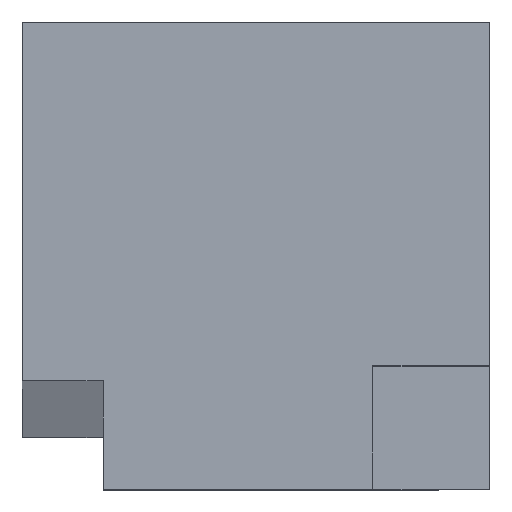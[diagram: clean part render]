
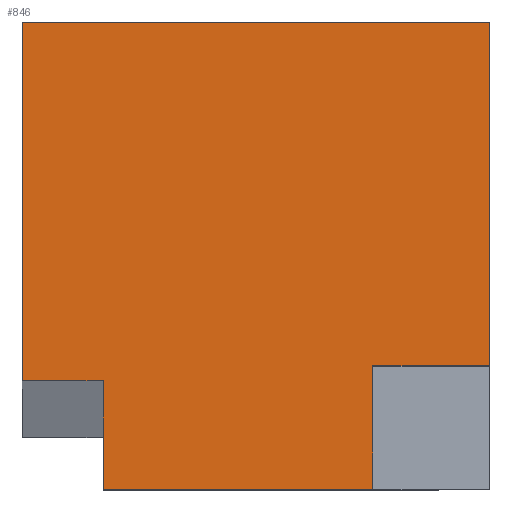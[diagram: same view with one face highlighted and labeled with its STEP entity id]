
A CAD part, top view. The second image highlights one B-rep face of the part: STEP entity #846.
In plain terms, the highlighted planar face has unit normal (0, 0, 1).
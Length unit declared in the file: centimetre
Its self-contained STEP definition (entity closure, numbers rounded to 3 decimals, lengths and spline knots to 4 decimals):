
#14 = VECTOR ( 'NONE', #63, 100. ) ;
#20 = LINE ( 'NONE', #787, #820 ) ;
#23 = LINE ( 'NONE', #365, #653 ) ;
#33 = AXIS2_PLACEMENT_3D ( 'NONE', #235, #647, #655 ) ;
#43 = VERTEX_POINT ( 'NONE', #92 ) ;
#44 = VERTEX_POINT ( 'NONE', #243 ) ;
#61 = EDGE_LOOP ( 'NONE', ( #576, #256, #649, #291, #413, #753, #920, #535 ) ) ;
#63 = DIRECTION ( 'NONE',  ( -1., 0., 0. ) ) ;
#92 = CARTESIAN_POINT ( 'NONE',  ( 172.8303, 0., 1000. ) ) ;
#98 = CARTESIAN_POINT ( 'NONE',  ( 0., 1000., 1000. ) ) ;
#129 = VECTOR ( 'NONE', #138, 100. ) ;
#138 = DIRECTION ( 'NONE',  ( -1., 0., 0. ) ) ;
#148 = VECTOR ( 'NONE', #518, 100. ) ;
#167 = CARTESIAN_POINT ( 'NONE',  ( 0., 231.7708, 1000. ) ) ;
#217 = VERTEX_POINT ( 'NONE', #227 ) ;
#218 = VERTEX_POINT ( 'NONE', #783 ) ;
#227 = CARTESIAN_POINT ( 'NONE',  ( 0., 1000., 1000. ) ) ;
#233 = CARTESIAN_POINT ( 'NONE',  ( 0., 1000., 1000. ) ) ;
#235 = CARTESIAN_POINT ( 'NONE',  ( 0., 0., 1000. ) ) ;
#243 = CARTESIAN_POINT ( 'NONE',  ( 1000., 1000., 1000. ) ) ;
#248 = VECTOR ( 'NONE', #745, 100. ) ;
#249 = EDGE_CURVE ( 'NONE', #473, #615, #546, .T. ) ;
#256 = ORIENTED_EDGE ( 'NONE', *, *, #595, .F. ) ;
#291 = ORIENTED_EDGE ( 'NONE', *, *, #335, .T. ) ;
#303 = DIRECTION ( 'NONE',  ( 1., 0., 0. ) ) ;
#305 = EDGE_CURVE ( 'NONE', #719, #44, #23, .T. ) ;
#309 = VECTOR ( 'NONE', #349, 100. ) ;
#320 = CARTESIAN_POINT ( 'NONE',  ( 750.0149, 264.616, 1000. ) ) ;
#335 = EDGE_CURVE ( 'NONE', #44, #217, #579, .T. ) ;
#342 = VECTOR ( 'NONE', #370, 100. ) ;
#344 = LINE ( 'NONE', #923, #309 ) ;
#349 = DIRECTION ( 'NONE',  ( 0., 1., 0. ) ) ;
#352 = CARTESIAN_POINT ( 'NONE',  ( 1000., 264.616, 1000. ) ) ;
#354 = VERTEX_POINT ( 'NONE', #167 ) ;
#361 = PLANE ( 'NONE',  #33 ) ;
#365 = CARTESIAN_POINT ( 'NONE',  ( 1000., 1000., 1000. ) ) ;
#370 = DIRECTION ( 'NONE',  ( -1., 0., 0. ) ) ;
#413 = ORIENTED_EDGE ( 'NONE', *, *, #423, .T. ) ;
#420 = CARTESIAN_POINT ( 'NONE',  ( 750.0149, 0., 1000. ) ) ;
#423 = EDGE_CURVE ( 'NONE', #217, #354, #460, .T. ) ;
#460 = LINE ( 'NONE', #98, #248 ) ;
#473 = VERTEX_POINT ( 'NONE', #320 ) ;
#489 = CARTESIAN_POINT ( 'NONE',  ( 172.8303, 231.7708, 1000. ) ) ;
#518 = DIRECTION ( 'NONE',  ( 0., -1., 0. ) ) ;
#535 = ORIENTED_EDGE ( 'NONE', *, *, #897, .T. ) ;
#546 = LINE ( 'NONE', #867, #148 ) ;
#556 = LINE ( 'NONE', #842, #14 ) ;
#576 = ORIENTED_EDGE ( 'NONE', *, *, #249, .F. ) ;
#579 = LINE ( 'NONE', #233, #342 ) ;
#595 = EDGE_CURVE ( 'NONE', #719, #473, #556, .T. ) ;
#602 = EDGE_CURVE ( 'NONE', #218, #354, #847, .T. ) ;
#615 = VERTEX_POINT ( 'NONE', #420 ) ;
#616 = EDGE_CURVE ( 'NONE', #43, #218, #344, .T. ) ;
#647 = DIRECTION ( 'NONE',  ( 0., 0., 1. ) ) ;
#649 = ORIENTED_EDGE ( 'NONE', *, *, #305, .T. ) ;
#653 = VECTOR ( 'NONE', #793, 100. ) ;
#655 = DIRECTION ( 'NONE',  ( 1., 0., 0. ) ) ;
#719 = VERTEX_POINT ( 'NONE', #352 ) ;
#745 = DIRECTION ( 'NONE',  ( 0., -1., 0. ) ) ;
#753 = ORIENTED_EDGE ( 'NONE', *, *, #602, .F. ) ;
#783 = CARTESIAN_POINT ( 'NONE',  ( 172.8303, 231.7708, 1000. ) ) ;
#787 = CARTESIAN_POINT ( 'NONE',  ( 0., 0., 1000. ) ) ;
#793 = DIRECTION ( 'NONE',  ( 0., 1., 0. ) ) ;
#820 = VECTOR ( 'NONE', #303, 100. ) ;
#842 = CARTESIAN_POINT ( 'NONE',  ( 750.0149, 264.616, 1000. ) ) ;
#846 = ADVANCED_FACE ( 'NONE', ( #861 ), #361, .T. ) ;
#847 = LINE ( 'NONE', #489, #129 ) ;
#861 = FACE_OUTER_BOUND ( 'NONE', #61, .T. ) ;
#867 = CARTESIAN_POINT ( 'NONE',  ( 750.0149, 0., 1000. ) ) ;
#897 = EDGE_CURVE ( 'NONE', #43, #615, #20, .T. ) ;
#920 = ORIENTED_EDGE ( 'NONE', *, *, #616, .F. ) ;
#923 = CARTESIAN_POINT ( 'NONE',  ( 172.8303, 0., 1000. ) ) ;
